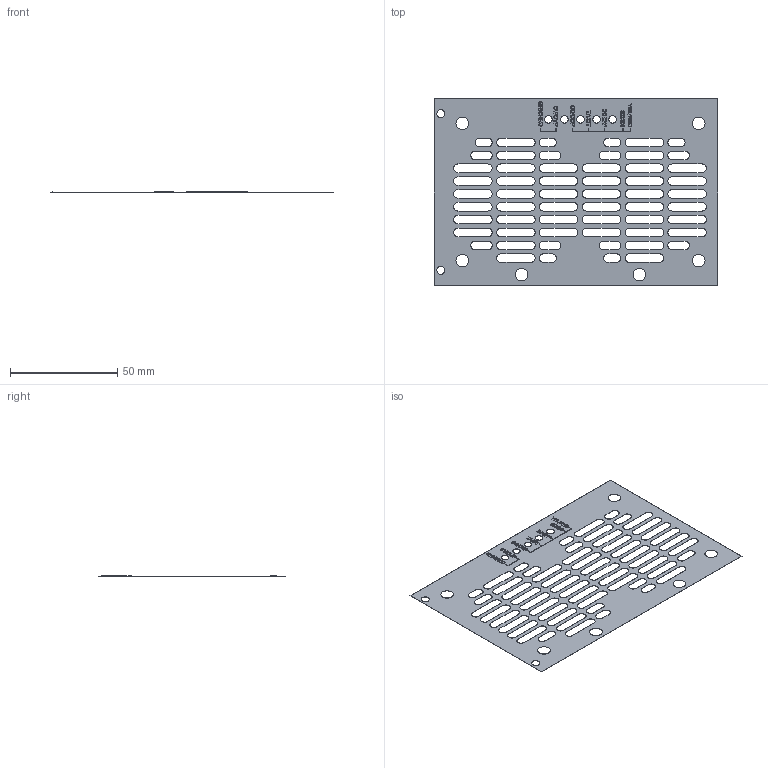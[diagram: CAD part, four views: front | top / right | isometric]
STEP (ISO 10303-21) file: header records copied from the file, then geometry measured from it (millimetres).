
FILE_DESCRIPTION(/* description */ ('Front Plate 3U Siebdruck','CAx-IF Rec.Pracs.---Representation and Presentation of Product Manufacturing Information (PMI)---4.0---2014-10-13'),/* implementation_level */ '2;1');
FILE_NAME(/* name */ 'E:\CAMTEC_2020_Pack and Go\Subrack_3U\2081100001.stp',/* time_stamp */ '2020-09-21T18:11:03+02:00',/* author */ ('rryba'),/* organization */ (''),/* preprocessor_version */ 'ST-DEVELOPER v18.1',/* originating_system */ 'Autodesk Inventor 2021',/* authorisation */ '');
FILE_SCHEMA (('AP242_MANAGED_MODEL_BASED_3D_ENGINEERING_MIM_LF { 1 0 10303 442 1 1 4 }'));
Length unit declared in the file: millimetre
Products named in the file (1): 2081100001
Bounding box: 132.2 x 87 x 0.2 mm (x, y, z)
Volume: 783.2 mm3; surface area: 15981.1 mm2
Topology: 45 solids, 45 shells, 808 faces, 2420 edges, 1966 vertices
Faces by surface type: plane 508, bspline 171, cylinder 129
Full cylindrical faces by diameter (mm): 3.5 x5, 3.8 x2, 5.9 x6
Entity records: 28645 total; most frequent: CARTESIAN_POINT 7416, ORIENTED_EDGE 4308, DIRECTION 3582, EDGE_CURVE 2154, LINE 1554, VECTOR 1554, VERTEX_POINT 1436, AXIS2_PLACEMENT_3D 1014
